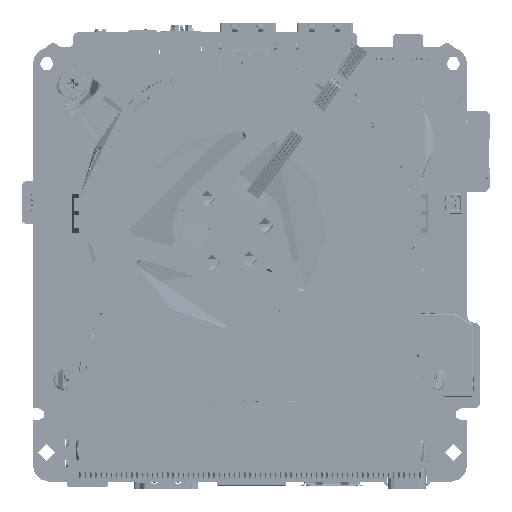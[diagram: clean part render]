
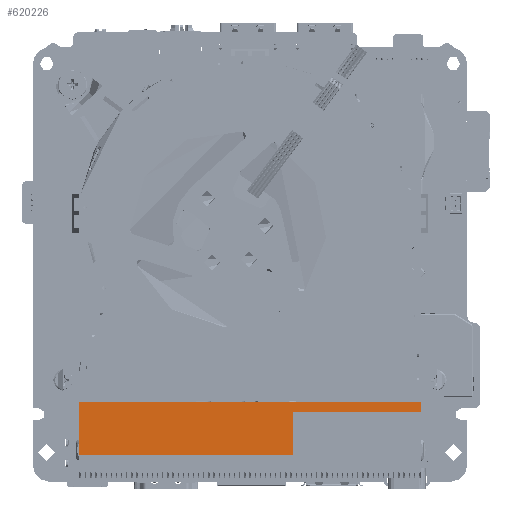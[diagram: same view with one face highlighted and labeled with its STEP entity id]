
A CAD part, front view. The second image highlights one B-rep face of the part: STEP entity #620226.
In plain terms, the highlighted planar face has unit normal (0, -1, 0).
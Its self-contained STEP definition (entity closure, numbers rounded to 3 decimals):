
#12489 = VECTOR ( 'NONE', #219248, 1000. ) ;
#19529 = DIRECTION ( 'NONE',  ( 0., 0., 1. ) ) ;
#37298 = LINE ( 'NONE', #107973, #65907 ) ;
#45827 = DIRECTION ( 'NONE',  ( -1., 0., 0. ) ) ;
#58356 = VERTEX_POINT ( 'NONE', #431041 ) ;
#65907 = VECTOR ( 'NONE', #45827, 1000. ) ;
#76501 = VERTEX_POINT ( 'NONE', #759593 ) ;
#88587 = DIRECTION ( 'NONE',  ( 0., 0., -1. ) ) ;
#95100 = EDGE_CURVE ( 'NONE', #76501, #585586, #513439, .T. ) ;
#107973 = CARTESIAN_POINT ( 'NONE',  ( 0., -14.46, -34.499 ) ) ;
#111519 = ORIENTED_EDGE ( 'NONE', *, *, #284017, .F. ) ;
#147851 = CARTESIAN_POINT ( 'NONE',  ( 40.05, -14.46, -40.349 ) ) ;
#155756 = ORIENTED_EDGE ( 'NONE', *, *, #95100, .F. ) ;
#178375 = EDGE_LOOP ( 'NONE', ( #180231, #313596, #111519, #155756, #507129, #679054 ) ) ;
#180231 = ORIENTED_EDGE ( 'NONE', *, *, #451684, .F. ) ;
#219248 = DIRECTION ( 'NONE',  ( -1., 0., 0. ) ) ;
#253585 = PLANE ( 'NONE',  #624967 ) ;
#274277 = VERTEX_POINT ( 'NONE', #539286 ) ;
#284017 = EDGE_CURVE ( 'NONE', #585586, #365459, #692982, .T. ) ;
#303423 = LINE ( 'NONE', #147851, #447804 ) ;
#310076 = CARTESIAN_POINT ( 'NONE',  ( 0., -14.46, -40.349 ) ) ;
#313596 = ORIENTED_EDGE ( 'NONE', *, *, #546882, .F. ) ;
#365459 = VERTEX_POINT ( 'NONE', #721028 ) ;
#377174 = VECTOR ( 'NONE', #750886, 1000. ) ;
#377281 = DIRECTION ( 'NONE',  ( 0., 0., 1. ) ) ;
#431041 = CARTESIAN_POINT ( 'NONE',  ( 40.05, -14.46, -34.499 ) ) ;
#447804 = VECTOR ( 'NONE', #88587, 1000. ) ;
#448797 = CARTESIAN_POINT ( 'NONE',  ( 10.05, -14.46, -40.349 ) ) ;
#451684 = EDGE_CURVE ( 'NONE', #274277, #58356, #303423, .T. ) ;
#507129 = ORIENTED_EDGE ( 'NONE', *, *, #548995, .F. ) ;
#513439 = LINE ( 'NONE', #712272, #12489 ) ;
#534987 = CARTESIAN_POINT ( 'NONE',  ( 0., -14.46, -32.199 ) ) ;
#539286 = CARTESIAN_POINT ( 'NONE',  ( 40.05, -14.46, -32.199 ) ) ;
#542920 = DIRECTION ( 'NONE',  ( 1., 0., 0. ) ) ;
#546882 = EDGE_CURVE ( 'NONE', #365459, #274277, #601993, .T. ) ;
#548995 = EDGE_CURVE ( 'NONE', #671630, #76501, #772413, .T. ) ;
#585586 = VERTEX_POINT ( 'NONE', #630813 ) ;
#601993 = LINE ( 'NONE', #534987, #717525 ) ;
#620226 = ADVANCED_FACE ( 'NONE', ( #787299 ), #253585, .F. ) ;
#624967 = AXIS2_PLACEMENT_3D ( 'NONE', #310076, #743968, #377281 ) ;
#630813 = CARTESIAN_POINT ( 'NONE',  ( -40.05, -14.46, -44.499 ) ) ;
#642141 = EDGE_CURVE ( 'NONE', #58356, #671630, #37298, .T. ) ;
#671630 = VERTEX_POINT ( 'NONE', #680005 ) ;
#679054 = ORIENTED_EDGE ( 'NONE', *, *, #642141, .F. ) ;
#680005 = CARTESIAN_POINT ( 'NONE',  ( 10.05, -14.46, -34.499 ) ) ;
#692982 = LINE ( 'NONE', #695787, #702288 ) ;
#695787 = CARTESIAN_POINT ( 'NONE',  ( -40.05, -14.46, -40.349 ) ) ;
#702288 = VECTOR ( 'NONE', #19529, 1000. ) ;
#712272 = CARTESIAN_POINT ( 'NONE',  ( 0., -14.46, -44.499 ) ) ;
#717525 = VECTOR ( 'NONE', #542920, 1000. ) ;
#721028 = CARTESIAN_POINT ( 'NONE',  ( -40.05, -14.46, -32.199 ) ) ;
#743968 = DIRECTION ( 'NONE',  ( 0., 1., 0. ) ) ;
#750886 = DIRECTION ( 'NONE',  ( 0., 0., -1. ) ) ;
#759593 = CARTESIAN_POINT ( 'NONE',  ( 10.05, -14.46, -44.499 ) ) ;
#772413 = LINE ( 'NONE', #448797, #377174 ) ;
#787299 = FACE_OUTER_BOUND ( 'NONE', #178375, .T. ) ;
